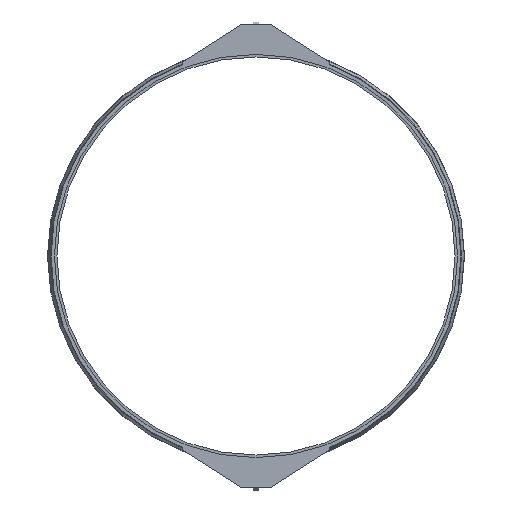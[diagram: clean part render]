
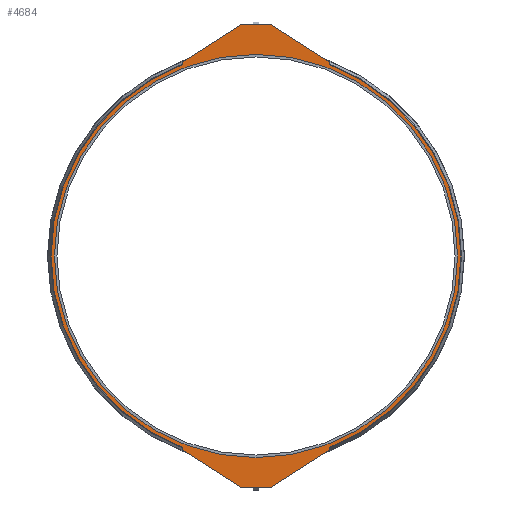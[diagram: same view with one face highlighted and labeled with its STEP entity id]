
A CAD part, left-side view. The second image highlights one B-rep face of the part: STEP entity #4684.
In plain terms, the highlighted planar face has unit normal (-1, 0, 0).
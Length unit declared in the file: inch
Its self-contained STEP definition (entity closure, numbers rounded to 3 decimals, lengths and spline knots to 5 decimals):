
#134=FACE_BOUND('',#814,.T.);
#300=PLANE('',#5095);
#539=FACE_OUTER_BOUND('',#813,.T.);
#813=EDGE_LOOP('',(#4140,#4141,#4142,#4143,#4144,#4145,#4146,#4147,#4148,
#4149,#4150,#4151,#4152,#4153,#4154,#4155,#4156,#4157,#4158,#4159));
#814=EDGE_LOOP('',(#4160,#4161));
#973=LINE('',#6759,#1422);
#977=LINE('',#6771,#1426);
#981=LINE('',#6783,#1430);
#985=LINE('',#6795,#1434);
#987=LINE('',#6800,#1436);
#1206=LINE('',#7611,#1655);
#1210=LINE('',#7623,#1659);
#1214=LINE('',#7635,#1663);
#1218=LINE('',#7645,#1667);
#1221=LINE('',#7651,#1670);
#1422=VECTOR('',#5479,0.3937);
#1426=VECTOR('',#5491,0.3937);
#1430=VECTOR('',#5503,0.3937);
#1434=VECTOR('',#5515,0.3937);
#1436=VECTOR('',#5519,0.3937);
#1655=VECTOR('',#6082,0.3937);
#1659=VECTOR('',#6094,0.3937);
#1663=VECTOR('',#6106,0.3937);
#1667=VECTOR('',#6118,0.3937);
#1670=VECTOR('',#6123,0.3937);
#1739=CIRCLE('',#4808,0.063);
#1741=CIRCLE('',#4812,0.125);
#1743=CIRCLE('',#4816,0.125);
#1745=CIRCLE('',#4820,0.063);
#1750=CIRCLE('',#4829,30.5);
#1803=CIRCLE('',#4993,0.063);
#1805=CIRCLE('',#4997,0.125);
#1807=CIRCLE('',#5001,0.125);
#1809=CIRCLE('',#5005,0.063);
#1811=CIRCLE('',#5011,30.5);
#1863=CIRCLE('',#5093,30.);
#1864=CIRCLE('',#5094,30.);
#1988=VERTEX_POINT('',#6749);
#1989=VERTEX_POINT('',#6751);
#1991=VERTEX_POINT('',#6757);
#1993=VERTEX_POINT('',#6763);
#1995=VERTEX_POINT('',#6769);
#1997=VERTEX_POINT('',#6775);
#1999=VERTEX_POINT('',#6781);
#2001=VERTEX_POINT('',#6787);
#2003=VERTEX_POINT('',#6793);
#2005=VERTEX_POINT('',#6799);
#2014=VERTEX_POINT('',#6821);
#2206=VERTEX_POINT('',#7602);
#2207=VERTEX_POINT('',#7604);
#2209=VERTEX_POINT('',#7610);
#2211=VERTEX_POINT('',#7616);
#2213=VERTEX_POINT('',#7622);
#2215=VERTEX_POINT('',#7628);
#2217=VERTEX_POINT('',#7634);
#2219=VERTEX_POINT('',#7640);
#2221=VERTEX_POINT('',#7649);
#2285=VERTEX_POINT('',#7841);
#2286=VERTEX_POINT('',#7843);
#2468=EDGE_CURVE('',#1988,#1989,#1739,.T.);
#2472=EDGE_CURVE('',#1991,#1988,#973,.T.);
#2475=EDGE_CURVE('',#1993,#1991,#1741,.T.);
#2478=EDGE_CURVE('',#1995,#1993,#977,.T.);
#2481=EDGE_CURVE('',#1997,#1995,#1743,.T.);
#2484=EDGE_CURVE('',#1999,#1997,#981,.T.);
#2487=EDGE_CURVE('',#2001,#1999,#1745,.T.);
#2490=EDGE_CURVE('',#2003,#2001,#985,.T.);
#2492=EDGE_CURVE('',#1989,#2005,#987,.T.);
#2504=EDGE_CURVE('',#2014,#2003,#1750,.T.);
#2790=EDGE_CURVE('',#2207,#2206,#1803,.T.);
#2793=EDGE_CURVE('',#2209,#2207,#1206,.T.);
#2796=EDGE_CURVE('',#2211,#2209,#1805,.T.);
#2799=EDGE_CURVE('',#2213,#2211,#1210,.T.);
#2802=EDGE_CURVE('',#2215,#2213,#1807,.T.);
#2805=EDGE_CURVE('',#2217,#2215,#1214,.T.);
#2808=EDGE_CURVE('',#2219,#2217,#1809,.T.);
#2811=EDGE_CURVE('',#2014,#2219,#1218,.T.);
#2814=EDGE_CURVE('',#2206,#2221,#1221,.T.);
#2819=EDGE_CURVE('',#2005,#2221,#1811,.T.);
#2910=EDGE_CURVE('',#2286,#2285,#1863,.T.);
#2911=EDGE_CURVE('',#2285,#2286,#1864,.T.);
#4140=ORIENTED_EDGE('',*,*,#2504,.F.);
#4141=ORIENTED_EDGE('',*,*,#2811,.T.);
#4142=ORIENTED_EDGE('',*,*,#2808,.T.);
#4143=ORIENTED_EDGE('',*,*,#2805,.T.);
#4144=ORIENTED_EDGE('',*,*,#2802,.T.);
#4145=ORIENTED_EDGE('',*,*,#2799,.T.);
#4146=ORIENTED_EDGE('',*,*,#2796,.T.);
#4147=ORIENTED_EDGE('',*,*,#2793,.T.);
#4148=ORIENTED_EDGE('',*,*,#2790,.T.);
#4149=ORIENTED_EDGE('',*,*,#2814,.T.);
#4150=ORIENTED_EDGE('',*,*,#2819,.F.);
#4151=ORIENTED_EDGE('',*,*,#2492,.F.);
#4152=ORIENTED_EDGE('',*,*,#2468,.F.);
#4153=ORIENTED_EDGE('',*,*,#2472,.F.);
#4154=ORIENTED_EDGE('',*,*,#2475,.F.);
#4155=ORIENTED_EDGE('',*,*,#2478,.F.);
#4156=ORIENTED_EDGE('',*,*,#2481,.F.);
#4157=ORIENTED_EDGE('',*,*,#2484,.F.);
#4158=ORIENTED_EDGE('',*,*,#2487,.F.);
#4159=ORIENTED_EDGE('',*,*,#2490,.F.);
#4160=ORIENTED_EDGE('',*,*,#2910,.T.);
#4161=ORIENTED_EDGE('',*,*,#2911,.T.);
#4684=ADVANCED_FACE('',(#539,#134),#300,.T.);
#4808=AXIS2_PLACEMENT_3D('',#6752,#5472,#5473);
#4812=AXIS2_PLACEMENT_3D('',#6765,#5485,#5486);
#4816=AXIS2_PLACEMENT_3D('',#6777,#5497,#5498);
#4820=AXIS2_PLACEMENT_3D('',#6789,#5509,#5510);
#4829=AXIS2_PLACEMENT_3D('',#6823,#5539,#5540);
#4993=AXIS2_PLACEMENT_3D('',#7605,#6076,#6077);
#4997=AXIS2_PLACEMENT_3D('',#7617,#6088,#6089);
#5001=AXIS2_PLACEMENT_3D('',#7629,#6100,#6101);
#5005=AXIS2_PLACEMENT_3D('',#7641,#6112,#6113);
#5011=AXIS2_PLACEMENT_3D('',#7661,#6133,#6134);
#5093=AXIS2_PLACEMENT_3D('',#7844,#6336,#6337);
#5094=AXIS2_PLACEMENT_3D('',#7845,#6338,#6339);
#5095=AXIS2_PLACEMENT_3D('',#7846,#6340,#6341);
#5472=DIRECTION('center_axis',(1.,0.,0.));
#5473=DIRECTION('ref_axis',(0.,-1.,0.));
#5479=DIRECTION('',(0.,0.843,0.538));
#5485=DIRECTION('center_axis',(1.,0.,0.));
#5486=DIRECTION('ref_axis',(0.,-0.538,0.843));
#5491=DIRECTION('',(0.,1.,0.));
#5497=DIRECTION('center_axis',(1.,0.,0.));
#5498=DIRECTION('ref_axis',(0.,0.,1.));
#5503=DIRECTION('',(0.,0.843,-0.538));
#5509=DIRECTION('center_axis',(1.,0.,0.));
#5510=DIRECTION('ref_axis',(0.,0.538,0.843));
#5515=DIRECTION('',(0.,0.,-1.));
#5519=DIRECTION('',(0.,0.,1.));
#5539=DIRECTION('center_axis',(1.,0.,0.));
#5540=DIRECTION('ref_axis',(0.,0.,-1.));
#6076=DIRECTION('center_axis',(-1.,0.,0.));
#6077=DIRECTION('ref_axis',(0.,-1.,0.));
#6082=DIRECTION('',(0.,0.843,-0.538));
#6088=DIRECTION('center_axis',(-1.,0.,0.));
#6089=DIRECTION('ref_axis',(0.,-0.538,-0.843));
#6094=DIRECTION('',(0.,1.,0.));
#6100=DIRECTION('center_axis',(-1.,0.,0.));
#6101=DIRECTION('ref_axis',(0.,0.,-1.));
#6106=DIRECTION('',(0.,0.843,0.538));
#6112=DIRECTION('center_axis',(-1.,0.,0.));
#6113=DIRECTION('ref_axis',(0.,0.538,-0.843));
#6118=DIRECTION('',(0.,0.,1.));
#6123=DIRECTION('',(0.,0.,-1.));
#6133=DIRECTION('center_axis',(1.,0.,0.));
#6134=DIRECTION('ref_axis',(0.,0.,-1.));
#6336=DIRECTION('center_axis',(1.,0.,0.));
#6337=DIRECTION('ref_axis',(0.,0.,-1.));
#6338=DIRECTION('center_axis',(1.,0.,0.));
#6339=DIRECTION('ref_axis',(0.,0.,-1.));
#6340=DIRECTION('center_axis',(-1.,0.,0.));
#6341=DIRECTION('ref_axis',(0.,0.,1.));
#6749=CARTESIAN_POINT('',(-7.375,10.97088,-28.84089));
#6751=CARTESIAN_POINT('',(-7.375,11.,-28.78778));
#6752=CARTESIAN_POINT('Origin',(-7.375,10.937,-28.78778));
#6757=CARTESIAN_POINT('',(-7.375,2.13075,-34.48038));
#6759=CARTESIAN_POINT('',(-7.375,2.13075,-34.48038));
#6763=CARTESIAN_POINT('',(-7.375,2.06352,-34.5));
#6765=CARTESIAN_POINT('Origin',(-7.375,2.06352,-34.375));
#6769=CARTESIAN_POINT('',(-7.375,-2.06352,-34.5));
#6771=CARTESIAN_POINT('',(-7.375,0.,-34.5));
#6775=CARTESIAN_POINT('',(-7.375,-2.13075,-34.48038));
#6777=CARTESIAN_POINT('Origin',(-7.375,-2.06352,-34.375));
#6781=CARTESIAN_POINT('',(-7.375,-10.97088,-28.84089));
#6783=CARTESIAN_POINT('',(-7.375,-10.97088,-28.84089));
#6787=CARTESIAN_POINT('',(-7.375,-11.,-28.78778));
#6789=CARTESIAN_POINT('Origin',(-7.375,-10.937,-28.78778));
#6793=CARTESIAN_POINT('',(-7.375,-11.,-28.44732));
#6795=CARTESIAN_POINT('',(-7.375,-11.,-28.44732));
#6799=CARTESIAN_POINT('',(-7.375,11.,-28.44732));
#6800=CARTESIAN_POINT('',(-7.375,11.,-28.78778));
#6821=CARTESIAN_POINT('',(-7.375,-11.,28.44732));
#6823=CARTESIAN_POINT('Origin',(-7.375,0.,0.));
#7602=CARTESIAN_POINT('',(-7.375,11.,28.78778));
#7604=CARTESIAN_POINT('',(-7.375,10.97088,28.84089));
#7605=CARTESIAN_POINT('Origin',(-7.375,10.937,28.78778));
#7610=CARTESIAN_POINT('',(-7.375,2.13075,34.48038));
#7611=CARTESIAN_POINT('',(-7.375,2.13075,34.48038));
#7616=CARTESIAN_POINT('',(-7.375,2.06352,34.5));
#7617=CARTESIAN_POINT('Origin',(-7.375,2.06352,34.375));
#7622=CARTESIAN_POINT('',(-7.375,-2.06352,34.5));
#7623=CARTESIAN_POINT('',(-7.375,0.,34.5));
#7628=CARTESIAN_POINT('',(-7.375,-2.13075,34.48038));
#7629=CARTESIAN_POINT('Origin',(-7.375,-2.06352,34.375));
#7634=CARTESIAN_POINT('',(-7.375,-10.97088,28.84089));
#7635=CARTESIAN_POINT('',(-7.375,-10.97088,28.84089));
#7640=CARTESIAN_POINT('',(-7.375,-11.,28.78778));
#7641=CARTESIAN_POINT('Origin',(-7.375,-10.937,28.78778));
#7645=CARTESIAN_POINT('',(-7.375,-11.,28.44732));
#7649=CARTESIAN_POINT('',(-7.375,11.,28.44732));
#7651=CARTESIAN_POINT('',(-7.375,11.,28.78778));
#7661=CARTESIAN_POINT('Origin',(-7.375,0.,0.));
#7841=CARTESIAN_POINT('',(-7.375,-30.,0.));
#7843=CARTESIAN_POINT('',(-7.375,30.,0.));
#7844=CARTESIAN_POINT('Origin',(-7.375,0.,0.));
#7845=CARTESIAN_POINT('Origin',(-7.375,0.,0.));
#7846=CARTESIAN_POINT('Origin',(-7.375,30.5,0.));
